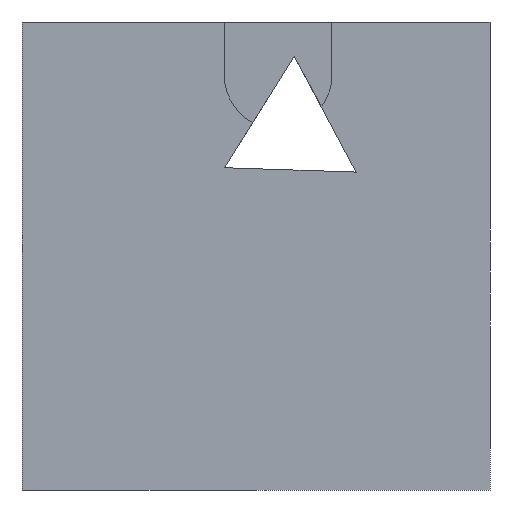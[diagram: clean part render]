
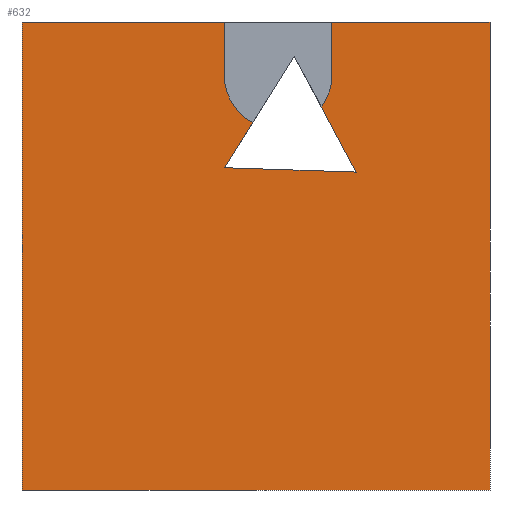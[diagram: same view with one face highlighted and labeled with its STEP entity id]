
A CAD part, left-side view. The second image highlights one B-rep face of the part: STEP entity #632.
In plain terms, the highlighted planar face has unit normal (-1, 0, 0).
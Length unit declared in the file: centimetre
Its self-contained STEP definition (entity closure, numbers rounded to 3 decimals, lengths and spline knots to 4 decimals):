
#10 = EDGE_CURVE ( 'NONE', #413, #772, #480, .T. ) ;
#18 = EDGE_CURVE ( 'NONE', #569, #805, #340, .T. ) ;
#23 = DIRECTION ( 'NONE',  ( 0., 0., 1. ) ) ;
#40 = EDGE_CURVE ( 'NONE', #466, #259, #213, .T. ) ;
#78 = DIRECTION ( 'NONE',  ( -1., 0., 0. ) ) ;
#82 = EDGE_CURVE ( 'NONE', #392, #413, #740, .T. ) ;
#96 = VERTEX_POINT ( 'NONE', #826 ) ;
#100 = CARTESIAN_POINT ( 'NONE',  ( 0., 0., 1000. ) ) ;
#104 = VECTOR ( 'NONE', #550, 100. ) ;
#117 = CARTESIAN_POINT ( 'NONE',  ( 0., 1000., 0. ) ) ;
#132 = CARTESIAN_POINT ( 'NONE',  ( 0., 1000., 1000. ) ) ;
#159 = VECTOR ( 'NONE', #539, 100. ) ;
#162 = CARTESIAN_POINT ( 'NONE',  ( 0., 567.6996, 886.5237 ) ) ;
#169 = EDGE_CURVE ( 'NONE', #507, #96, #426, .T. ) ;
#178 = ORIENTED_EDGE ( 'NONE', *, *, #661, .F. ) ;
#191 = ORIENTED_EDGE ( 'NONE', *, *, #82, .T. ) ;
#202 = CARTESIAN_POINT ( 'NONE',  ( 0., 1000., 0. ) ) ;
#208 = VECTOR ( 'NONE', #748, 100. ) ;
#209 = CARTESIAN_POINT ( 'NONE',  ( 0., 567.6996, 1000. ) ) ;
#213 = LINE ( 'NONE', #280, #159 ) ;
#224 = CARTESIAN_POINT ( 'NONE',  ( 0., 566.853, 688.6226 ) ) ;
#225 = PLANE ( 'NONE',  #832 ) ;
#239 = DIRECTION ( 'NONE',  ( 0., 0., -1. ) ) ;
#240 = ORIENTED_EDGE ( 'NONE', *, *, #692, .T. ) ;
#244 = CARTESIAN_POINT ( 'NONE',  ( 0., 337.7306, 1000. ) ) ;
#247 = LINE ( 'NONE', #710, #265 ) ;
#259 = VERTEX_POINT ( 'NONE', #244 ) ;
#265 = VECTOR ( 'NONE', #771, 100. ) ;
#280 = CARTESIAN_POINT ( 'NONE',  ( 0., 337.7306, 886.5237 ) ) ;
#282 = CIRCLE ( 'NONE', #510, 114.9845 ) ;
#293 = EDGE_CURVE ( 'NONE', #440, #772, #516, .T. ) ;
#297 = DIRECTION ( 'NONE',  ( 0., -0.471, -0.882 ) ) ;
#312 = VERTEX_POINT ( 'NONE', #841 ) ;
#326 = VECTOR ( 'NONE', #609, 100. ) ;
#327 = LINE ( 'NONE', #583, #208 ) ;
#340 = LINE ( 'NONE', #820, #326 ) ;
#352 = CIRCLE ( 'NONE', #677, 114.9845 ) ;
#373 = VECTOR ( 'NONE', #570, 100. ) ;
#375 = CARTESIAN_POINT ( 'NONE',  ( 0., 418.2712, 927.3017 ) ) ;
#390 = VECTOR ( 'NONE', #297, 100. ) ;
#392 = VERTEX_POINT ( 'NONE', #657 ) ;
#393 = VECTOR ( 'NONE', #407, 100. ) ;
#407 = DIRECTION ( 'NONE',  ( 0., 0., -1. ) ) ;
#410 = VECTOR ( 'NONE', #613, 100. ) ;
#413 = VERTEX_POINT ( 'NONE', #117 ) ;
#416 = FACE_OUTER_BOUND ( 'NONE', #702, .T. ) ;
#419 = CARTESIAN_POINT ( 'NONE',  ( 0., 285.8599, 679.2866 ) ) ;
#423 = VECTOR ( 'NONE', #239, 100. ) ;
#426 = LINE ( 'NONE', #224, #104 ) ;
#433 = CARTESIAN_POINT ( 'NONE',  ( 0., 285.8599, 679.2866 ) ) ;
#440 = VERTEX_POINT ( 'NONE', #599 ) ;
#462 = VERTEX_POINT ( 'NONE', #473 ) ;
#464 = ORIENTED_EDGE ( 'NONE', *, *, #169, .T. ) ;
#466 = VERTEX_POINT ( 'NONE', #529 ) ;
#473 = CARTESIAN_POINT ( 'NONE',  ( 0., 360.1107, 818.3632 ) ) ;
#480 = LINE ( 'NONE', #202, #410 ) ;
#489 = EDGE_CURVE ( 'NONE', #462, #466, #282, .T. ) ;
#491 = CARTESIAN_POINT ( 'NONE',  ( 0., 452.7151, 886.5237 ) ) ;
#497 = CARTESIAN_POINT ( 'NONE',  ( 0., 1000., 1000. ) ) ;
#504 = EDGE_CURVE ( 'NONE', #392, #569, #327, .T. ) ;
#506 = ORIENTED_EDGE ( 'NONE', *, *, #593, .T. ) ;
#507 = VERTEX_POINT ( 'NONE', #433 ) ;
#510 = AXIS2_PLACEMENT_3D ( 'NONE', #787, #649, #742 ) ;
#513 = LINE ( 'NONE', #375, #373 ) ;
#516 = LINE ( 'NONE', #100, #423 ) ;
#529 = CARTESIAN_POINT ( 'NONE',  ( 0., 337.7306, 886.5237 ) ) ;
#531 = ORIENTED_EDGE ( 'NONE', *, *, #293, .F. ) ;
#534 = ORIENTED_EDGE ( 'NONE', *, *, #10, .T. ) ;
#539 = DIRECTION ( 'NONE',  ( 0., 0., 1. ) ) ;
#550 = DIRECTION ( 'NONE',  ( 0., 0.999, 0.033 ) ) ;
#554 = EDGE_CURVE ( 'NONE', #805, #312, #352, .T. ) ;
#569 = VERTEX_POINT ( 'NONE', #209 ) ;
#570 = DIRECTION ( 'NONE',  ( 0., -0.528, 0.849 ) ) ;
#583 = CARTESIAN_POINT ( 'NONE',  ( 0., 1000., 1000. ) ) ;
#593 = EDGE_CURVE ( 'NONE', #462, #507, #751, .T. ) ;
#599 = CARTESIAN_POINT ( 'NONE',  ( 0., 0., 1000. ) ) ;
#609 = DIRECTION ( 'NONE',  ( 0., 0., -1. ) ) ;
#613 = DIRECTION ( 'NONE',  ( 0., -1., 0. ) ) ;
#620 = CARTESIAN_POINT ( 'NONE',  ( 0., 0., 0. ) ) ;
#632 = ADVANCED_FACE ( 'NONE', ( #416 ), #225, .F. ) ;
#649 = DIRECTION ( 'NONE',  ( -1., 0., 0. ) ) ;
#657 = CARTESIAN_POINT ( 'NONE',  ( 0., 1000., 1000. ) ) ;
#661 = EDGE_CURVE ( 'NONE', #259, #440, #247, .T. ) ;
#677 = AXIS2_PLACEMENT_3D ( 'NONE', #491, #78, #23 ) ;
#692 = EDGE_CURVE ( 'NONE', #96, #312, #513, .T. ) ;
#694 = DIRECTION ( 'NONE',  ( 0., 0., -1. ) ) ;
#699 = ORIENTED_EDGE ( 'NONE', *, *, #504, .F. ) ;
#702 = EDGE_LOOP ( 'NONE', ( #464, #240, #777, #734, #699, #191, #534, #531, #178, #704, #722, #506 ) ) ;
#704 = ORIENTED_EDGE ( 'NONE', *, *, #40, .F. ) ;
#710 = CARTESIAN_POINT ( 'NONE',  ( 0., 1000., 1000. ) ) ;
#722 = ORIENTED_EDGE ( 'NONE', *, *, #489, .F. ) ;
#734 = ORIENTED_EDGE ( 'NONE', *, *, #18, .F. ) ;
#740 = LINE ( 'NONE', #132, #393 ) ;
#742 = DIRECTION ( 'NONE',  ( 0., 0., 1. ) ) ;
#748 = DIRECTION ( 'NONE',  ( 0., -1., 0. ) ) ;
#751 = LINE ( 'NONE', #419, #390 ) ;
#762 = DIRECTION ( 'NONE',  ( 1., 0., 0. ) ) ;
#771 = DIRECTION ( 'NONE',  ( 0., -1., 0. ) ) ;
#772 = VERTEX_POINT ( 'NONE', #620 ) ;
#777 = ORIENTED_EDGE ( 'NONE', *, *, #554, .F. ) ;
#787 = CARTESIAN_POINT ( 'NONE',  ( 0., 452.7151, 886.5237 ) ) ;
#805 = VERTEX_POINT ( 'NONE', #162 ) ;
#820 = CARTESIAN_POINT ( 'NONE',  ( 0., 567.6996, 1000. ) ) ;
#826 = CARTESIAN_POINT ( 'NONE',  ( 0., 566.853, 688.6226 ) ) ;
#832 = AXIS2_PLACEMENT_3D ( 'NONE', #497, #762, #694 ) ;
#841 = CARTESIAN_POINT ( 'NONE',  ( 0., 506.8175, 785.0625 ) ) ;
